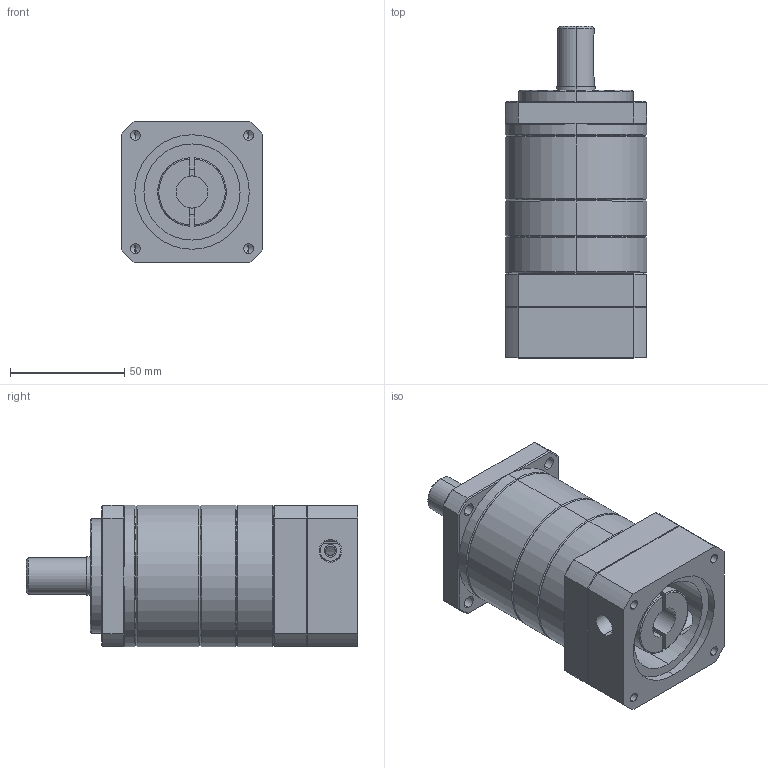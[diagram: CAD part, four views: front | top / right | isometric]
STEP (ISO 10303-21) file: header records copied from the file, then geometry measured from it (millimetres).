
FILE_DESCRIPTION (( 'STEP AP203' ), '1' );
FILE_NAME ('MF60X-L3£r50PCD£r70M5.STEP', '2018-12-06T02:07:55', ( 'KELLY' ), ( '' ), 'SwSTEP 2.0', 'SolidWorks 2012', '' );
FILE_SCHEMA (( 'CONFIG_CONTROL_DESIGN' ));
Length unit declared in the file: millimetre
Products named in the file (1): MF60X-L3｣r50PCD｣r70M5
Bounding box: 62 x 145 x 62 mm (x, y, z)
Volume: 347250.7 mm3; surface area: 57543.5 mm2
Topology: 3 solids, 3 shells, 184 faces, 434 edges, 261 vertices
Faces by surface type: cylinder 72, plane 64, cone 44, torus 4
Entity records: 5761 total; most frequent: CARTESIAN_POINT 1468, DIRECTION 906, ORIENTED_EDGE 848, EDGE_CURVE 424, AXIS2_PLACEMENT_3D 359, VERTEX_POINT 261, EDGE_LOOP 219, LINE 188
